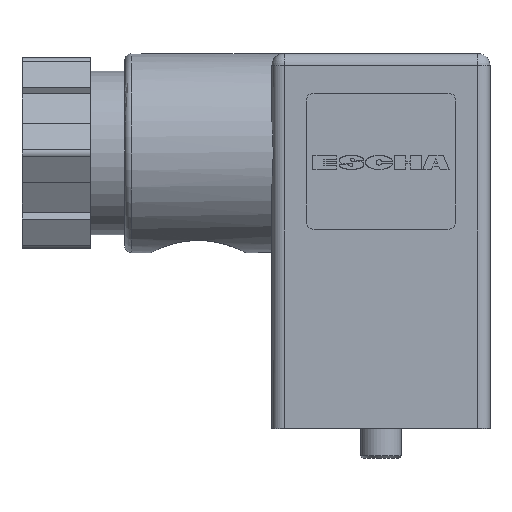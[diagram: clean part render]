
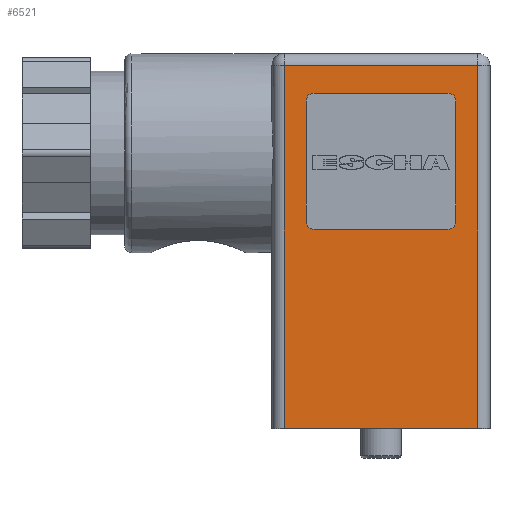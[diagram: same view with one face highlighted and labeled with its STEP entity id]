
A CAD part, top view. The second image highlights one B-rep face of the part: STEP entity #6521.
In plain terms, the highlighted planar face has unit normal (0, 0, 1).
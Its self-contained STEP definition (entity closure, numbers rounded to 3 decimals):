
#50=PLANE('',#18379);
#1905=LINE('',#24452,#4227);
#1918=LINE('',#24478,#4240);
#1921=LINE('',#24500,#4243);
#1922=LINE('',#24502,#4244);
#1923=LINE('',#24506,#4245);
#1924=LINE('',#24510,#4246);
#1925=LINE('',#24514,#4247);
#1926=LINE('',#24518,#4248);
#4227=VECTOR('',#19677,1.);
#4240=VECTOR('',#19692,1.);
#4243=VECTOR('',#19699,1.);
#4244=VECTOR('',#19700,1.);
#4245=VECTOR('',#19703,1.);
#4246=VECTOR('',#19706,1.);
#4247=VECTOR('',#19709,1.);
#4248=VECTOR('',#19712,1.);
#6521=ADVANCED_FACE('',(#7434,#7435),#50,.F.);
#7434=FACE_BOUND('',#7528,.T.);
#7435=FACE_BOUND('',#7529,.T.);
#7528=EDGE_LOOP('',(#8583,#8584,#8585,#8586));
#7529=EDGE_LOOP('',(#8587,#8588,#8589,#8590,#8591,#8592,#8593,#8594));
#8583=ORIENTED_EDGE('',*,*,#15527,.T.);
#8584=ORIENTED_EDGE('',*,*,#15545,.F.);
#8585=ORIENTED_EDGE('',*,*,#15546,.T.);
#8586=ORIENTED_EDGE('',*,*,#15540,.T.);
#8587=ORIENTED_EDGE('',*,*,#15547,.T.);
#8588=ORIENTED_EDGE('',*,*,#15548,.F.);
#8589=ORIENTED_EDGE('',*,*,#15549,.T.);
#8590=ORIENTED_EDGE('',*,*,#15550,.F.);
#8591=ORIENTED_EDGE('',*,*,#15551,.T.);
#8592=ORIENTED_EDGE('',*,*,#15552,.F.);
#8593=ORIENTED_EDGE('',*,*,#15553,.T.);
#8594=ORIENTED_EDGE('',*,*,#15554,.F.);
#13774=VERTEX_POINT('',#24439);
#13780=VERTEX_POINT('',#24451);
#13793=VERTEX_POINT('',#24479);
#13797=VERTEX_POINT('',#24501);
#13798=VERTEX_POINT('',#24504);
#13799=VERTEX_POINT('',#24505);
#13800=VERTEX_POINT('',#24507);
#13801=VERTEX_POINT('',#24509);
#13802=VERTEX_POINT('',#24511);
#13803=VERTEX_POINT('',#24513);
#13804=VERTEX_POINT('',#24515);
#13805=VERTEX_POINT('',#24517);
#15527=EDGE_CURVE('',#13774,#13780,#1905,.T.);
#15540=EDGE_CURVE('',#13793,#13774,#1918,.T.);
#15545=EDGE_CURVE('',#13797,#13780,#1921,.T.);
#15546=EDGE_CURVE('',#13797,#13793,#1922,.T.);
#15547=EDGE_CURVE('',#13798,#13799,#18082,.T.);
#15548=EDGE_CURVE('',#13800,#13799,#1923,.T.);
#15549=EDGE_CURVE('',#13800,#13801,#18083,.T.);
#15550=EDGE_CURVE('',#13802,#13801,#1924,.T.);
#15551=EDGE_CURVE('',#13802,#13803,#18084,.T.);
#15552=EDGE_CURVE('',#13804,#13803,#1925,.T.);
#15553=EDGE_CURVE('',#13804,#13805,#18085,.T.);
#15554=EDGE_CURVE('',#13798,#13805,#1926,.T.);
#18082=CIRCLE('',#18375,0.6);
#18083=CIRCLE('',#18376,0.6);
#18084=CIRCLE('',#18377,0.6);
#18085=CIRCLE('',#18378,0.6);
#18375=AXIS2_PLACEMENT_3D('',#24503,#19701,#19702);
#18376=AXIS2_PLACEMENT_3D('',#24508,#19704,#19705);
#18377=AXIS2_PLACEMENT_3D('',#24512,#19707,#19708);
#18378=AXIS2_PLACEMENT_3D('',#24516,#19710,#19711);
#18379=AXIS2_PLACEMENT_3D('',#24519,#19713,#19714);
#19677=DIRECTION('',(1.,0.,0.));
#19692=DIRECTION('',(0.,-1.,0.));
#19699=DIRECTION('',(0.,-1.,0.));
#19700=DIRECTION('',(-1.,0.,0.));
#19701=DIRECTION('',(0.,0.,-1.));
#19702=DIRECTION('',(-1.,0.,0.));
#19703=DIRECTION('',(-1.,0.,0.));
#19704=DIRECTION('',(0.,0.,-1.));
#19705=DIRECTION('',(-1.,0.,0.));
#19706=DIRECTION('',(0.,1.,0.));
#19707=DIRECTION('',(0.,0.,-1.));
#19708=DIRECTION('',(-1.,0.,0.));
#19709=DIRECTION('',(1.,0.,0.));
#19710=DIRECTION('',(0.,0.,-1.));
#19711=DIRECTION('',(-1.,0.,0.));
#19712=DIRECTION('',(0.,-1.,0.));
#19713=DIRECTION('',(0.,0.,-1.));
#19714=DIRECTION('',(1.,0.,0.));
#24439=CARTESIAN_POINT('',(-60.438,-9.69,-2.2));
#24451=CARTESIAN_POINT('',(-46.238,-9.69,-2.2));
#24452=CARTESIAN_POINT('',(-60.438,-9.69,-2.2));
#24478=CARTESIAN_POINT('',(-60.438,-8.19,-2.2));
#24479=CARTESIAN_POINT('',(-60.438,16.91,-2.2));
#24500=CARTESIAN_POINT('',(-46.238,-8.19,-2.2));
#24501=CARTESIAN_POINT('',(-46.238,16.91,-2.2));
#24502=CARTESIAN_POINT('',(-60.438,16.91,-2.2));
#24503=CARTESIAN_POINT('',(-58.238,14.31,-2.2));
#24504=CARTESIAN_POINT('',(-58.838,14.31,-2.2));
#24505=CARTESIAN_POINT('',(-58.238,14.91,-2.2));
#24506=CARTESIAN_POINT('',(-60.438,14.91,-2.2));
#24507=CARTESIAN_POINT('',(-48.438,14.91,-2.2));
#24508=CARTESIAN_POINT('',(-48.438,14.31,-2.2));
#24509=CARTESIAN_POINT('',(-47.838,14.31,-2.2));
#24510=CARTESIAN_POINT('',(-47.838,17.81,-2.2));
#24511=CARTESIAN_POINT('',(-47.838,5.51,-2.2));
#24512=CARTESIAN_POINT('',(-48.438,5.51,-2.2));
#24513=CARTESIAN_POINT('',(-48.438,4.91,-2.2));
#24514=CARTESIAN_POINT('',(-60.438,4.91,-2.2));
#24515=CARTESIAN_POINT('',(-58.238,4.91,-2.2));
#24516=CARTESIAN_POINT('',(-58.238,5.51,-2.2));
#24517=CARTESIAN_POINT('',(-58.838,5.51,-2.2));
#24518=CARTESIAN_POINT('',(-58.838,17.81,-2.2));
#24519=CARTESIAN_POINT('',(-60.438,-8.19,-2.2));
